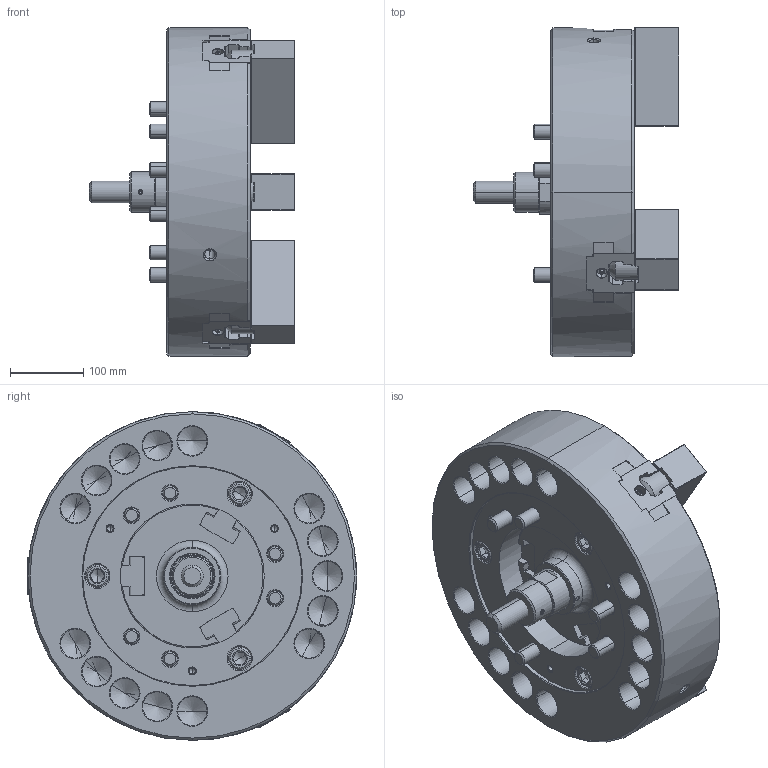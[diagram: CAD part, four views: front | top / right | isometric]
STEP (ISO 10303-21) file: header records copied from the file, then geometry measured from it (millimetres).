
FILE_DESCRIPTION (( 'STEP AP214' ), '1' );
FILE_NAME ('DT1_N-18_OUTSIDE_VIEW_UC.STEP', '2026-03-13T00:48:29', ( '' ), ( '' ), 'SwSTEP 2.0', 'SolidWorks 2022', '' );
FILE_SCHEMA (( 'AUTOMOTIVE_DESIGN' ));
Length unit declared in the file: millimetre
Products named in the file (11): DT1_N-18_DN^DT1_N-18; Copy of 61P321208^DT1_N-18; DT1_N-18_M6x12^DT1_N-18; DT1_N-18_OUTSIDE_VIEW_UC; DT1_N-18_M20x55^DT1_N-18; DT1_N-18_SOFTJAW^DT1_N-18; DT1_N-18_TNUT^DT1_N-18; DT1_N-18_DRAWSCREW^DT1_N-18; DT1_N-18_BASE^DT1_N-18; DT1_N-18_M20x115^DT1_N-18; DT1_N-18_COVER^DT1_N-18
Assembly tree (29 placements, depth 2):
  DT1_N-18_OUTSIDE_VIEW_UC
    DT1_N-18_SOFTJAW^DT1_N-18  x3
    DT1_N-18_TNUT^DT1_N-18  x6
    DT1_N-18_COVER^DT1_N-18
    DT1_N-18_DRAWSCREW^DT1_N-18
    Copy of 61P321208^DT1_N-18
    DT1_N-18_DN^DT1_N-18
    DT1_N-18_BASE^DT1_N-18
    DT1_N-18_M6x12^DT1_N-18  x3
    DT1_N-18_M20x115^DT1_N-18  x6
    DT1_N-18_M20x55^DT1_N-18  x6
Bounding box: 281 x 450.75 x 450 mm (x, y, z)
Volume: 16521679.7 mm3; surface area: 1226610.1 mm2
Topology: 29 solids, 35 shells, 7081 faces, 19972 edges, 13107 vertices
Faces by surface type: plane 5045, cylinder 868, bspline 599, cone 501, torus 62, sphere 6
Entity records: 201546 total; most frequent: CARTESIAN_POINT 64298, ORIENTED_EDGE 31184, DIRECTION 23976, EDGE_CURVE 15592, VECTOR 11900, LINE 11900, VERTEX_POINT 10273, AXIS2_PLACEMENT_3D 6038
